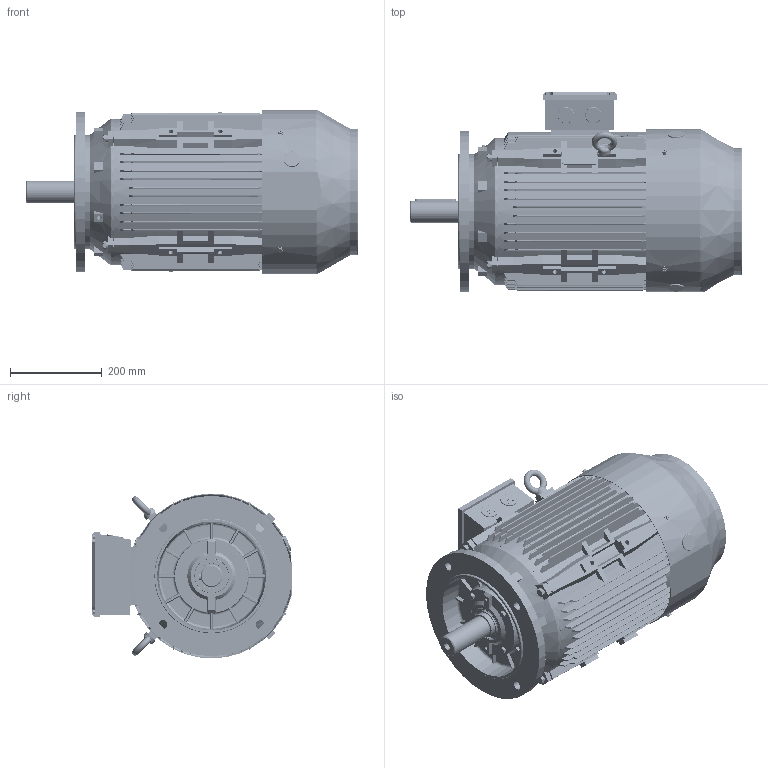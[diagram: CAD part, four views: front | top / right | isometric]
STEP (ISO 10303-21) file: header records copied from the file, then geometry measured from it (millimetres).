
FILE_DESCRIPTION (( 'STEP AP214' ), '1' );
FILE_NAME ('BCT3220.18H405.11.STEP', '2020-04-23T12:31:14', ( '' ), ( '' ), 'SwSTEP 2.0', 'SolidWorks 2019', '' );
FILE_SCHEMA (( 'AUTOMOTIVE_DESIGN' ));
Length unit declared in the file: millimetre
Products named in the file (1): BCT3220.18H405.11
Bounding box: 725 x 436.58 x 359.96 mm (x, y, z)
Volume: 11836942.4 mm3; surface area: 3241735.5 mm2
Topology: 51 solids, 51 shells, 6755 faces, 19183 edges, 12485 vertices
Faces by surface type: plane 3140, cylinder 2558, cone 370, torus 294, bspline 211, sphere 182
Entity records: 253690 total; most frequent: CARTESIAN_POINT 75841, ORIENTED_EDGE 38026, DIRECTION 36193, EDGE_CURVE 19013, AXIS2_PLACEMENT_3D 12758, VERTEX_POINT 12433, LINE 10677, VECTOR 10677
